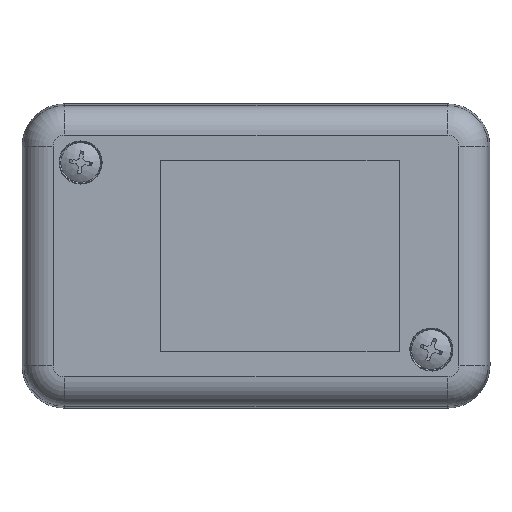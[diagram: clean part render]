
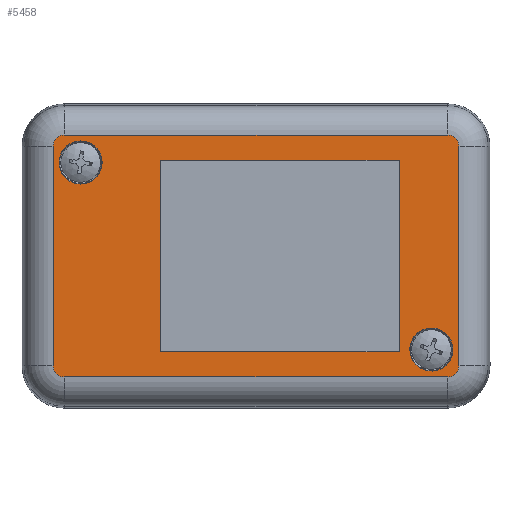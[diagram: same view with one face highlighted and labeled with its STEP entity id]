
A CAD part, front view. The second image highlights one B-rep face of the part: STEP entity #5458.
In plain terms, the highlighted planar face has unit normal (0, -1, 0).
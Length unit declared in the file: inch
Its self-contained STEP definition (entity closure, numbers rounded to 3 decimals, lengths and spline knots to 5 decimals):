
#26 = FACE_OUTER_BOUND ( 'NONE', #5818, .T. ) ;
#48 = CIRCLE ( 'NONE', #551, 0.11511 ) ;
#56 = CARTESIAN_POINT ( 'NONE',  ( -0.511, -0.355, -0.513 ) ) ;
#85 = CARTESIAN_POINT ( 'NONE',  ( 0.9375, -0.355, -0.5 ) ) ;
#151 = VERTEX_POINT ( 'NONE', #2359 ) ;
#164 = CARTESIAN_POINT ( 'NONE',  ( -1.023, -0.355, 0.5855 ) ) ;
#193 = DIRECTION ( 'NONE',  ( 0., -1., 0. ) ) ;
#201 = DIRECTION ( 'NONE',  ( 0., 0., -1. ) ) ;
#413 = CARTESIAN_POINT ( 'NONE',  ( -1.023, -0.355, -0.5855 ) ) ;
#457 = VERTEX_POINT ( 'NONE', #4204 ) ;
#551 = AXIS2_PLACEMENT_3D ( 'NONE', #1985, #588, #1049 ) ;
#555 = VECTOR ( 'NONE', #2992, 39.37008 ) ;
#582 = CARTESIAN_POINT ( 'NONE',  ( 1.023, -0.355, -0.64686 ) ) ;
#588 = DIRECTION ( 'NONE',  ( 0., -1., 0. ) ) ;
#592 = LINE ( 'NONE', #56, #1258 ) ;
#648 = LINE ( 'NONE', #5778, #4563 ) ;
#680 = ORIENTED_EDGE ( 'NONE', *, *, #3538, .F. ) ;
#767 = CARTESIAN_POINT ( 'NONE',  ( 0.765, -0.355, 0.513 ) ) ;
#790 = ORIENTED_EDGE ( 'NONE', *, *, #2097, .T. ) ;
#810 = EDGE_CURVE ( 'NONE', #1682, #1682, #1493, .T. ) ;
#871 = VERTEX_POINT ( 'NONE', #4490 ) ;
#926 = CIRCLE ( 'NONE', #1605, 0.06136 ) ;
#930 = DIRECTION ( 'NONE',  ( 1., 0., 0. ) ) ;
#942 = ORIENTED_EDGE ( 'NONE', *, *, #5268, .T. ) ;
#973 = VERTEX_POINT ( 'NONE', #2102 ) ;
#977 = CARTESIAN_POINT ( 'NONE',  ( -0.9375, -0.355, 0.38489 ) ) ;
#1020 = FACE_BOUND ( 'NONE', #3855, .T. ) ;
#1049 = DIRECTION ( 'NONE',  ( 0., 0., -1. ) ) ;
#1112 = ORIENTED_EDGE ( 'NONE', *, *, #3159, .T. ) ;
#1145 = DIRECTION ( 'NONE',  ( 0., 1., 0. ) ) ;
#1149 = CARTESIAN_POINT ( 'NONE',  ( 1.023, -0.355, -0.5855 ) ) ;
#1230 = VERTEX_POINT ( 'NONE', #2392 ) ;
#1251 = CARTESIAN_POINT ( 'NONE',  ( -1.023, -0.355, 0.64686 ) ) ;
#1258 = VECTOR ( 'NONE', #930, 39.37008 ) ;
#1412 = DIRECTION ( 'NONE',  ( 0., 0., 1. ) ) ;
#1493 = CIRCLE ( 'NONE', #3783, 0.11511 ) ;
#1513 = VECTOR ( 'NONE', #201, 39.37008 ) ;
#1521 = CARTESIAN_POINT ( 'NONE',  ( -0.511, -0.355, -0.513 ) ) ;
#1605 = AXIS2_PLACEMENT_3D ( 'NONE', #413, #4624, #5424 ) ;
#1682 = VERTEX_POINT ( 'NONE', #1822 ) ;
#1724 = VECTOR ( 'NONE', #2191, 39.37008 ) ;
#1747 = VERTEX_POINT ( 'NONE', #4730 ) ;
#1822 = CARTESIAN_POINT ( 'NONE',  ( 0.8419, -0.355, -0.56413 ) ) ;
#1958 = ORIENTED_EDGE ( 'NONE', *, *, #1964, .T. ) ;
#1964 = EDGE_CURVE ( 'NONE', #457, #5552, #926, .T. ) ;
#1970 = VERTEX_POINT ( 'NONE', #2721 ) ;
#1985 = CARTESIAN_POINT ( 'NONE',  ( -0.9375, -0.355, 0.5 ) ) ;
#2018 = DIRECTION ( 'NONE',  ( 0., 0., 1. ) ) ;
#2097 = EDGE_CURVE ( 'NONE', #871, #457, #4762, .T. ) ;
#2102 = CARTESIAN_POINT ( 'NONE',  ( 1.08436, -0.355, 0.5855 ) ) ;
#2123 = EDGE_CURVE ( 'NONE', #973, #3787, #3803, .T. ) ;
#2148 = EDGE_CURVE ( 'NONE', #1747, #2672, #648, .T. ) ;
#2191 = DIRECTION ( 'NONE',  ( 0., 0., 1. ) ) ;
#2208 = VECTOR ( 'NONE', #5816, 39.37008 ) ;
#2247 = ORIENTED_EDGE ( 'NONE', *, *, #4603, .T. ) ;
#2359 = CARTESIAN_POINT ( 'NONE',  ( 1.023, -0.355, -0.64686 ) ) ;
#2373 = FACE_BOUND ( 'NONE', #5775, .T. ) ;
#2392 = CARTESIAN_POINT ( 'NONE',  ( -0.511, -0.355, -0.513 ) ) ;
#2455 = DIRECTION ( 'NONE',  ( 0., 0., -1. ) ) ;
#2475 = CIRCLE ( 'NONE', #4385, 0.06136 ) ;
#2486 = VECTOR ( 'NONE', #2788, 39.37008 ) ;
#2638 = LINE ( 'NONE', #4457, #1724 ) ;
#2672 = VERTEX_POINT ( 'NONE', #767 ) ;
#2721 = CARTESIAN_POINT ( 'NONE',  ( -1.023, -0.355, 0.64686 ) ) ;
#2788 = DIRECTION ( 'NONE',  ( 1., 0., 0. ) ) ;
#2884 = CIRCLE ( 'NONE', #3549, 0.06136 ) ;
#2900 = EDGE_CURVE ( 'NONE', #5070, #1230, #5098, .T. ) ;
#2902 = VERTEX_POINT ( 'NONE', #977 ) ;
#2975 = DIRECTION ( 'NONE',  ( 0., -1., 0. ) ) ;
#2979 = AXIS2_PLACEMENT_3D ( 'NONE', #4141, #3246, #1412 ) ;
#2992 = DIRECTION ( 'NONE',  ( -1., 0., 0. ) ) ;
#3064 = DIRECTION ( 'NONE',  ( 0., 0., 1. ) ) ;
#3129 = ORIENTED_EDGE ( 'NONE', *, *, #4154, .F. ) ;
#3159 = EDGE_CURVE ( 'NONE', #151, #4194, #2475, .T. ) ;
#3246 = DIRECTION ( 'NONE',  ( 0., 1., 0. ) ) ;
#3481 = ORIENTED_EDGE ( 'NONE', *, *, #2123, .T. ) ;
#3522 = DIRECTION ( 'NONE',  ( 0., -1., 0. ) ) ;
#3538 = EDGE_CURVE ( 'NONE', #2902, #2902, #48, .T. ) ;
#3549 = AXIS2_PLACEMENT_3D ( 'NONE', #164, #193, #4383 ) ;
#3655 = ORIENTED_EDGE ( 'NONE', *, *, #4026, .T. ) ;
#3783 = AXIS2_PLACEMENT_3D ( 'NONE', #85, #1145, #4251 ) ;
#3787 = VERTEX_POINT ( 'NONE', #5197 ) ;
#3803 = CIRCLE ( 'NONE', #5126, 0.06136 ) ;
#3855 = EDGE_LOOP ( 'NONE', ( #680 ) ) ;
#3885 = CARTESIAN_POINT ( 'NONE',  ( -0.511, -0.355, 0.513 ) ) ;
#3954 = EDGE_CURVE ( 'NONE', #4194, #973, #2638, .T. ) ;
#4026 = EDGE_CURVE ( 'NONE', #5552, #151, #5043, .T. ) ;
#4067 = ORIENTED_EDGE ( 'NONE', *, *, #2900, .F. ) ;
#4141 = CARTESIAN_POINT ( 'NONE',  ( 1.023, -0.355, 0.5855 ) ) ;
#4154 = EDGE_CURVE ( 'NONE', #2672, #5070, #5248, .T. ) ;
#4194 = VERTEX_POINT ( 'NONE', #5664 ) ;
#4204 = CARTESIAN_POINT ( 'NONE',  ( -1.08436, -0.355, -0.5855 ) ) ;
#4225 = FACE_BOUND ( 'NONE', #5109, .T. ) ;
#4230 = ORIENTED_EDGE ( 'NONE', *, *, #810, .T. ) ;
#4251 = DIRECTION ( 'NONE',  ( -0.83, 0., -0.557 ) ) ;
#4278 = VECTOR ( 'NONE', #2455, 39.37008 ) ;
#4383 = DIRECTION ( 'NONE',  ( 0., 0., 1. ) ) ;
#4385 = AXIS2_PLACEMENT_3D ( 'NONE', #1149, #2975, #3064 ) ;
#4389 = ORIENTED_EDGE ( 'NONE', *, *, #5487, .F. ) ;
#4457 = CARTESIAN_POINT ( 'NONE',  ( 1.08436, -0.355, 0.5855 ) ) ;
#4476 = DIRECTION ( 'NONE',  ( 0., 0., 1. ) ) ;
#4490 = CARTESIAN_POINT ( 'NONE',  ( -1.08436, -0.355, 0.5855 ) ) ;
#4563 = VECTOR ( 'NONE', #4476, 39.37008 ) ;
#4603 = EDGE_CURVE ( 'NONE', #3787, #1970, #5690, .T. ) ;
#4624 = DIRECTION ( 'NONE',  ( 0., -1., 0. ) ) ;
#4634 = ORIENTED_EDGE ( 'NONE', *, *, #3954, .T. ) ;
#4640 = ORIENTED_EDGE ( 'NONE', *, *, #2148, .F. ) ;
#4730 = CARTESIAN_POINT ( 'NONE',  ( 0.765, -0.355, -0.513 ) ) ;
#4762 = LINE ( 'NONE', #5298, #4278 ) ;
#5043 = LINE ( 'NONE', #582, #2486 ) ;
#5070 = VERTEX_POINT ( 'NONE', #5748 ) ;
#5098 = LINE ( 'NONE', #1521, #1513 ) ;
#5109 = EDGE_LOOP ( 'NONE', ( #4230 ) ) ;
#5126 = AXIS2_PLACEMENT_3D ( 'NONE', #5360, #3522, #2018 ) ;
#5146 = PLANE ( 'NONE',  #2979 ) ;
#5197 = CARTESIAN_POINT ( 'NONE',  ( 1.023, -0.355, 0.64686 ) ) ;
#5248 = LINE ( 'NONE', #3885, #555 ) ;
#5268 = EDGE_CURVE ( 'NONE', #1970, #871, #2884, .T. ) ;
#5298 = CARTESIAN_POINT ( 'NONE',  ( -1.08436, -0.355, -0.5855 ) ) ;
#5360 = CARTESIAN_POINT ( 'NONE',  ( 1.023, -0.355, 0.5855 ) ) ;
#5424 = DIRECTION ( 'NONE',  ( 0., 0., 1. ) ) ;
#5458 = ADVANCED_FACE ( 'NONE', ( #2373, #4225, #1020, #26 ), #5146, .F. ) ;
#5487 = EDGE_CURVE ( 'NONE', #1230, #1747, #592, .T. ) ;
#5552 = VERTEX_POINT ( 'NONE', #5554 ) ;
#5554 = CARTESIAN_POINT ( 'NONE',  ( -1.023, -0.355, -0.64686 ) ) ;
#5664 = CARTESIAN_POINT ( 'NONE',  ( 1.08436, -0.355, -0.5855 ) ) ;
#5690 = LINE ( 'NONE', #1251, #2208 ) ;
#5748 = CARTESIAN_POINT ( 'NONE',  ( -0.511, -0.355, 0.513 ) ) ;
#5775 = EDGE_LOOP ( 'NONE', ( #4389, #4067, #3129, #4640 ) ) ;
#5778 = CARTESIAN_POINT ( 'NONE',  ( 0.765, -0.355, -0.513 ) ) ;
#5816 = DIRECTION ( 'NONE',  ( -1., 0., 0. ) ) ;
#5818 = EDGE_LOOP ( 'NONE', ( #2247, #942, #790, #1958, #3655, #1112, #4634, #3481 ) ) ;
